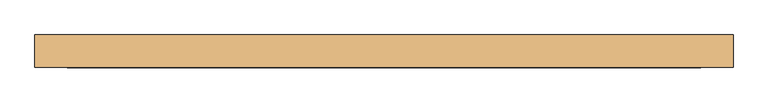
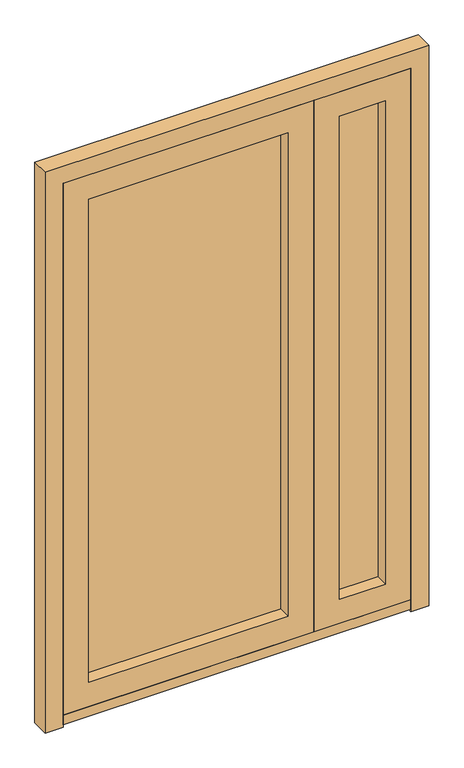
"""IFC4 building model written with IfcOpenShell, lengths in millimetres: door geometry, Dr_Дверь_v2.1 : ДВСТД Ос Дп 23-15 Л EIS60."""

import ifcopenshell
import ifcopenshell.guid

model = None  # the IFC model being written
_history = None  # IfcOwnerHistory: only IFC2X3 demands one
_inside = {}  # id of a spatial element -> (the spatial element, [elements in it])
_under = {}  # id of a project, library or spatial element -> (it, [spatial elements below it])
_declared = {}  # id of a project -> (the project, [libraries it declares])
_typed = {}  # id of a type object -> (the type object, [elements of that type])
_made_of = {}  # id of a material, layer set ... -> (it, [elements and type objects made of it])


def new_model(schema):
    """Start an empty IFC model of exactly this schema.

    Asked for "IFC4X3", IfcOpenShell would pick the latest addendum, in which some entities
    have other attributes; the version numbers below select the first issue.
    IFC2X3 requires an IfcOwnerHistory on every rooted entity: one is made here for all.
    """
    global model, _history
    if schema == "IFC4X3":
        model = ifcopenshell.file(schema_version=(4, 3, 0, 0))
    else:
        model = ifcopenshell.file(schema=schema)
    _inside.clear()
    _under.clear()
    _declared.clear()
    _typed.clear()
    _made_of.clear()
    _history = None
    if model.schema == "IFC2X3":
        org = make("IfcOrganization", Name="unknown")
        user = make(
            "IfcPersonAndOrganization",
            ThePerson=make("IfcPerson", FamilyName="unknown"),
            TheOrganization=org,
        )
        app = make(
            "IfcApplication",
            ApplicationDeveloper=org,
            Version="unknown",
            ApplicationFullName="unknown",
            ApplicationIdentifier="unknown",
        )
        _history = make(
            "IfcOwnerHistory",
            OwningUser=user,
            OwningApplication=app,
            ChangeAction="ADDED",
            CreationDate=0,
        )
    return model


def make(cls, **values):
    """One entity of the class cls with the attributes given. An attribute that is None is left unset."""
    return model.create_entity(
        cls, **{name: value for name, value in values.items() if value is not None}
    )


def rooted(cls, **values):
    """An entity with a GlobalId (a new one), such as an element, a storey or a relation."""
    return make(cls, GlobalId=ifcopenshell.guid.new(), OwnerHistory=_history, **values)


def si_unit(unit_type, name, prefix=None):
    """IfcSIUnit, for example si_unit("LENGTHUNIT", "METRE", prefix="MILLI")."""
    return make("IfcSIUnit", UnitType=unit_type, Prefix=prefix, Name=name)


def assignment(units):
    """IfcUnitAssignment: the units of a project."""
    return None if units is None else make("IfcUnitAssignment", Units=units)


def point(xyz):
    """IfcCartesianPoint."""
    return None if xyz is None else make("IfcCartesianPoint", Coordinates=xyz)


def direction(xyz):
    """IfcDirection."""
    return None if xyz is None else make("IfcDirection", DirectionRatios=xyz)


def frame(location, z_axis=None, x_axis=None):
    """IfcAxis2Placement3D, a coordinate frame: its origin and axes. An axis left out is left unset."""
    return make(
        "IfcAxis2Placement3D",
        Location=point(location),
        Axis=direction(z_axis),
        RefDirection=direction(x_axis),
    )


def origin():
    """The frame at (0, 0, 0) with its axes left unset."""
    return frame((0.0, 0.0, 0.0))


def place(relative_to, where):
    """IfcLocalPlacement: puts the frame where relative to a parent placement (None: the world)."""
    return make(
        "IfcLocalPlacement", PlacementRelTo=relative_to, RelativePlacement=where
    )


def context(
    kind, dimensions, precision=None, world=None, true_north=None, identifier=None
):
    """IfcGeometricRepresentationContext, for example the 3D "Model" context."""
    return make(
        "IfcGeometricRepresentationContext",
        ContextIdentifier=identifier,
        ContextType=kind,
        CoordinateSpaceDimension=dimensions,
        Precision=precision,
        WorldCoordinateSystem=world,
        TrueNorth=true_north,
    )


def project(units=None, contexts=None):
    """IfcProject with its units and contexts."""
    return rooted(
        "IfcProject",
        Name="project",
        RepresentationContexts=contexts,
        UnitsInContext=assignment(units),
    )


def spatial(cls, under=None, at=None, **own):
    """A site, building, storey or space (cls), placed at a placement, below another one or the project."""
    s = rooted(cls, ObjectPlacement=at, **own)
    if under is not None:
        _under.setdefault(under.id(), (under, []))[1].append(s)
    return s


def polyline(points):
    """IfcPolyline through the points."""
    return make("IfcPolyline", Points=[point(p) for p in points])


def outline(outer, holes=None, kind="AREA"):
    """IfcArbitraryClosedProfileDef: a profile drawn as a closed curve; with holes, ...WithVoids."""
    if holes is None:
        return make("IfcArbitraryClosedProfileDef", ProfileType=kind, OuterCurve=outer)
    return make(
        "IfcArbitraryProfileDefWithVoids",
        ProfileType=kind,
        OuterCurve=outer,
        InnerCurves=holes,
    )


def extrude(swept, where, along, depth):
    """IfcExtrudedAreaSolid: the profile swept, set in the frame where, extruded along a direction by depth."""
    return make(
        "IfcExtrudedAreaSolid",
        SweptArea=swept,
        Position=where,
        ExtrudedDirection=direction(along),
        Depth=depth,
    )


def shape(context_of_items, identifier, shape_type, items):
    """IfcShapeRepresentation: the items that make up one representation, for example the "Body"."""
    return make(
        "IfcShapeRepresentation",
        ContextOfItems=context_of_items,
        RepresentationIdentifier=identifier,
        RepresentationType=shape_type,
        Items=items,
    )


def source(mapping_origin, context_of_items, identifier, shape_type, items):
    """IfcRepresentationMap: a shape defined once, which mapped items show again and again."""
    return make(
        "IfcRepresentationMap",
        MappingOrigin=mapping_origin,
        MappedRepresentation=shape(context_of_items, identifier, shape_type, items),
    )


def transform(
    local_origin,
    x_axis=None,
    y_axis=None,
    z_axis=None,
    scale=None,
    scale2=None,
    scale3=None,
    uniform=True,
):
    """IfcCartesianTransformationOperator3D, or its non-uniform kind. x_axis, y_axis, z_axis: its Axis1, 2, 3."""
    if uniform:
        return make(
            "IfcCartesianTransformationOperator3D",
            Axis1=direction(x_axis),
            Axis2=direction(y_axis),
            LocalOrigin=point(local_origin),
            Scale=scale,
            Axis3=direction(z_axis),
        )
    return make(
        "IfcCartesianTransformationOperator3DnonUniform",
        Axis1=direction(x_axis),
        Axis2=direction(y_axis),
        LocalOrigin=point(local_origin),
        Scale=scale,
        Axis3=direction(z_axis),
        Scale2=scale2,
        Scale3=scale3,
    )


def mapped(mapping_source, mapping_target):
    """IfcMappedItem: shows the shape of a source again, moved by a transform."""
    return make(
        "IfcMappedItem", MappingSource=mapping_source, MappingTarget=mapping_target
    )


def made_of(thing, what):
    """Note that an element or type object is made of a material, layer set ...; save() writes the relation."""
    if what is not None:
        _made_of.setdefault(what.id(), (what, []))[1].append(thing)
    return thing


def element(
    cls,
    number,
    at=None,
    inside=None,
    cuts=None,
    type_object=None,
    material=None,
    context=None,
    identifier="Body",
    shape_type=None,
    held_by="IfcProductDefinitionShape",
    body=None,
    shapes=None,
    **own,
):
    """One element of the class cls, such as IfcWall. Its Tag is "e" and its number.

    at: its placement. inside: the storey or other place that contains it. cuts: it is an
    opening in that element (IfcRelVoidsElement). A single representation is given by context,
    identifier, shape_type and body (its items); several are given by shapes. held_by: the class
    of the entity that holds the representations. save() writes the other relations.
    """
    e = rooted(cls, Tag="e%d" % number, ObjectPlacement=at, **own)
    if body is not None:
        shapes = [shape(context, identifier, shape_type, body)]
    if shapes is not None:
        e.Representation = make(held_by, Representations=shapes)
    if inside is not None:
        _inside.setdefault(inside.id(), (inside, []))[1].append(e)
    if cuts is not None:
        rooted(
            "IfcRelVoidsElement", RelatingBuildingElement=cuts, RelatedOpeningElement=e
        )
    if type_object is not None:
        _typed.setdefault(type_object.id(), (type_object, []))[1].append(e)
    return made_of(e, material)


def aggregate(whole, parts):
    """IfcRelAggregates: a whole, such as a stair, and the parts it consists of."""
    return rooted("IfcRelAggregates", RelatingObject=whole, RelatedObjects=parts)


def save(model, path):
    """Write the relations noted so far, then the file.

    IfcRelAggregates (storeys below a building ...), IfcRelContainedInSpatialStructure (elements
    in a storey), IfcRelDefinesByType, IfcRelAssociatesMaterial and IfcRelDeclares: one each for
    every whole, place, type object, material and project.
    """
    for whole, parts in _under.values():
        aggregate(whole, parts)
    for where, things in _inside.values():
        rooted(
            "IfcRelContainedInSpatialStructure",
            RelatedElements=things,
            RelatingStructure=where,
        )
    for kind, things in _typed.values():
        rooted("IfcRelDefinesByType", RelatedObjects=things, RelatingType=kind)
    for what, things in _made_of.values():
        rooted("IfcRelAssociatesMaterial", RelatedObjects=things, RelatingMaterial=what)
    for by, libraries in _declared.values():
        rooted("IfcRelDeclares", RelatingContext=by, RelatedDefinitions=libraries)
    model.write(path)


def door_1362573d(model_context):
    return source(origin(), model_context, "Body", "SweptSolid", [
        extrude(outline(polyline([(-36.0, -555.0), (2210.0, -555.0), (2210.0, 805.0), (-36.0, 805.0), (-36.0, 875.0), (2280.0, 875.0), (2280.0, -625.0), (-36.0, -625.0), (-36.0, -555.0)])), frame((0.0, -125.0, 0.0), z_axis=(0.0, 1.0, 0.0), x_axis=(0.0, 0.0, 1.0)), (0.0, 0.0, 1.0), 70.0),
        extrude(outline(polyline([(805.0, -125.0), (-555.0, -125.0), (-555.0, -55.0), (805.0, -55.0), (805.0, -125.0)])), frame((0.0, 0.0, -26.0), z_axis=(0.0, 0.0, 1.0), x_axis=(1.0, 0.0, 0.0)), (0.0, 0.0, 1.0), 40.0),
        extrude(outline(polyline([(2210.0, 805.0), (2210.0, 424.9994583), (14.0, 424.9994583), (14.0, 805.0), (2210.0, 805.0)]), holes=[polyline([(114.0, 705.0), (114.0, 525.0), (2110.0, 525.0), (2110.0, 705.0), (114.0, 705.0)])]), frame((0.0, -125.0, 0.0), z_axis=(0.0, 1.0, 0.0), x_axis=(0.0, 0.0, 1.0)), (0.0, 0.0, 1.0), 70.0),
        extrude(outline(polyline([(525.0, -75.0), (525.0, -70.0), (705.0, -70.0), (705.0, -75.0), (525.0, -75.0)])), frame((0.0, 0.0, 114.0), z_axis=(0.0, 0.0, 1.0), x_axis=(1.0, 0.0, 0.0)), (0.0, 0.0, 1.0), 1996.0),
        extrude(outline(polyline([(2210.0, -555.0), (14.0, -555.0), (14.0, 425.0005417), (2210.0, 425.0005417), (2210.0, -555.0)]), holes=[polyline([(114.0, -455.0), (2110.0, -455.0), (2110.0, 325.0), (114.0, 325.0), (114.0, -455.0)])]), frame((0.0, -125.0, 0.0), z_axis=(0.0, 1.0, 0.0), x_axis=(0.0, 0.0, 1.0)), (0.0, 0.0, 1.0), 70.0),
        extrude(outline(polyline([(325.0, -75.0), (-455.0, -75.0), (-455.0, -70.0), (325.0, -70.0), (325.0, -75.0)])), frame((0.0, 0.0, 114.0), z_axis=(0.0, 0.0, 1.0), x_axis=(1.0, 0.0, 0.0)), (0.0, 0.0, 1.0), 1996.0),
    ])


if __name__ == "__main__":
    model = new_model("IFC4")
    model_context = context("Model", 3, world=origin())
    ifc_project = project(units=[si_unit("LENGTHUNIT", "METRE", prefix="MILLI")], contexts=[model_context])
    site = spatial("IfcSite", under=ifc_project)
    building = spatial("IfcBuilding", under=site)
    placement = place(None, origin())
    door_shape = door_1362573d(model_context)
    element("IfcDoor", 1, ObjectType="Dr_Дверь_v2.1 : ДВСТД Ос Дп 23-15 Л EIS60", at=placement, inside=building, context=model_context, shape_type="MappedRepresentation", body=[
        mapped(door_shape, transform((0.0, 0.0, 0.0), x_axis=(1.0, 0.0, 0.0), y_axis=(0.0, 1.0, 0.0), z_axis=(0.0, 0.0, 1.0))),
    ])
    save(model, "model.ifc")
